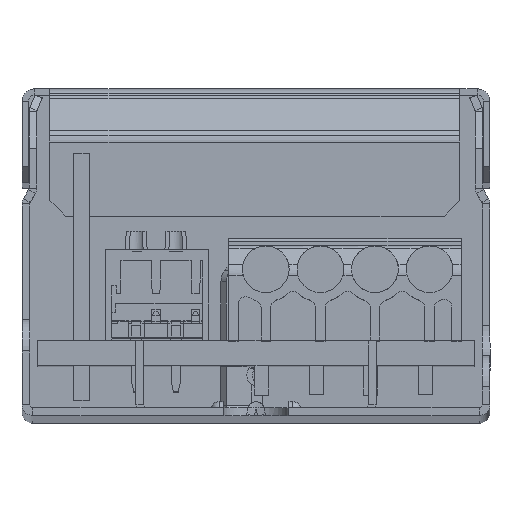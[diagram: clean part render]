
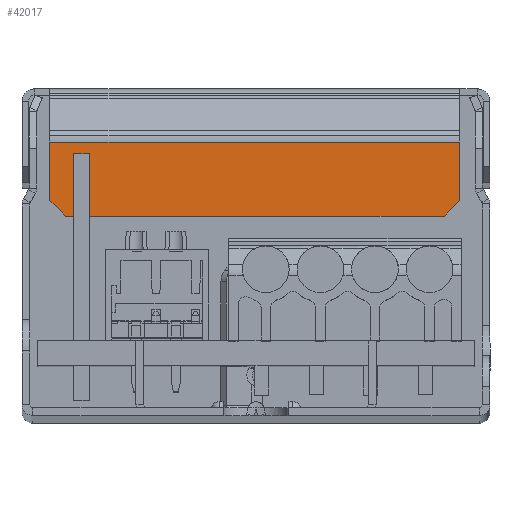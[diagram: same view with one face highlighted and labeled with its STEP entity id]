
A CAD part, top view. The second image highlights one B-rep face of the part: STEP entity #42017.
In plain terms, the highlighted planar face has unit normal (0, 0, 1).
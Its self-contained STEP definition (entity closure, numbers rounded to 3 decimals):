
#595 = VERTEX_POINT ( 'NONE', #31786 ) ;
#864 = DIRECTION ( 'NONE',  ( 0., -1., 0. ) ) ;
#980 = CARTESIAN_POINT ( 'NONE',  ( 12.058, 12.835, 111.629 ) ) ;
#1360 = EDGE_CURVE ( 'NONE', #16195, #5293, #15480, .T. ) ;
#2050 = ORIENTED_EDGE ( 'NONE', *, *, #17997, .T. ) ;
#3133 = EDGE_CURVE ( 'NONE', #28525, #34255, #41277, .T. ) ;
#3677 = CARTESIAN_POINT ( 'NONE',  ( -12.213, 12.835, 111.629 ) ) ;
#3702 = VECTOR ( 'NONE', #35180, 1000. ) ;
#5293 = VERTEX_POINT ( 'NONE', #18432 ) ;
#5534 = VECTOR ( 'NONE', #28909, 1000. ) ;
#7615 = VECTOR ( 'NONE', #23549, 1000. ) ;
#7915 = LINE ( 'NONE', #39773, #7615 ) ;
#8472 = LINE ( 'NONE', #21520, #39245 ) ;
#9089 = CARTESIAN_POINT ( 'NONE',  ( 13.058, 13.835, 111.629 ) ) ;
#9500 = ORIENTED_EDGE ( 'NONE', *, *, #1360, .T. ) ;
#9879 = CARTESIAN_POINT ( 'NONE',  ( 0., -0.203, 111.629 ) ) ;
#10605 = VERTEX_POINT ( 'NONE', #26772 ) ;
#11009 = ORIENTED_EDGE ( 'NONE', *, *, #17070, .F. ) ;
#15214 = CARTESIAN_POINT ( 'NONE',  ( -13.213, 13.835, 111.629 ) ) ;
#15480 = LINE ( 'NONE', #9089, #3702 ) ;
#15594 = LINE ( 'NONE', #22265, #30925 ) ;
#16195 = VERTEX_POINT ( 'NONE', #980 ) ;
#16717 = DIRECTION ( 'NONE',  ( 0., 0., -1. ) ) ;
#17070 = EDGE_CURVE ( 'NONE', #16195, #10605, #8472, .T. ) ;
#17997 = EDGE_CURVE ( 'NONE', #28525, #10605, #32317, .T. ) ;
#18063 = ORIENTED_EDGE ( 'NONE', *, *, #35628, .F. ) ;
#18432 = CARTESIAN_POINT ( 'NONE',  ( 13.058, 13.835, 111.629 ) ) ;
#20046 = EDGE_LOOP ( 'NONE', ( #11009, #9500, #37995, #18063, #29099, #2050 ) ) ;
#21520 = CARTESIAN_POINT ( 'NONE',  ( -13.213, 12.835, 111.629 ) ) ;
#22265 = CARTESIAN_POINT ( 'NONE',  ( 13.058, 12.835, 111.629 ) ) ;
#22281 = CARTESIAN_POINT ( 'NONE',  ( -13.213, 17.571, 111.629 ) ) ;
#22715 = FACE_OUTER_BOUND ( 'NONE', #20046, .T. ) ;
#22944 = DIRECTION ( 'NONE',  ( 0., -1., 0. ) ) ;
#23549 = DIRECTION ( 'NONE',  ( 1., 0., 0. ) ) ;
#26492 = VECTOR ( 'NONE', #41051, 1000. ) ;
#26762 = EDGE_CURVE ( 'NONE', #595, #5293, #15594, .T. ) ;
#26772 = CARTESIAN_POINT ( 'NONE',  ( -12.213, 12.835, 111.629 ) ) ;
#28259 = CARTESIAN_POINT ( 'NONE',  ( -13.213, 17.84, 111.629 ) ) ;
#28525 = VERTEX_POINT ( 'NONE', #15214 ) ;
#28909 = DIRECTION ( 'NONE',  ( 0.707, -0.707, 0. ) ) ;
#29099 = ORIENTED_EDGE ( 'NONE', *, *, #3133, .F. ) ;
#30925 = VECTOR ( 'NONE', #864, 1000. ) ;
#31786 = CARTESIAN_POINT ( 'NONE',  ( 13.058, 17.571, 111.629 ) ) ;
#32317 = LINE ( 'NONE', #3677, #5534 ) ;
#32550 = PLANE ( 'NONE',  #38029 ) ;
#34255 = VERTEX_POINT ( 'NONE', #22281 ) ;
#35180 = DIRECTION ( 'NONE',  ( 0.707, 0.707, 0. ) ) ;
#35628 = EDGE_CURVE ( 'NONE', #34255, #595, #7915, .T. ) ;
#37967 = DIRECTION ( 'NONE',  ( -1., 0., 0. ) ) ;
#37995 = ORIENTED_EDGE ( 'NONE', *, *, #26762, .F. ) ;
#38029 = AXIS2_PLACEMENT_3D ( 'NONE', #9879, #16717, #22944 ) ;
#39245 = VECTOR ( 'NONE', #37967, 1000. ) ;
#39773 = CARTESIAN_POINT ( 'NONE',  ( 13.058, 17.571, 111.629 ) ) ;
#41051 = DIRECTION ( 'NONE',  ( 0., 1., 0. ) ) ;
#41277 = LINE ( 'NONE', #28259, #26492 ) ;
#42017 = ADVANCED_FACE ( 'NONE', ( #22715 ), #32550, .F. ) ;
